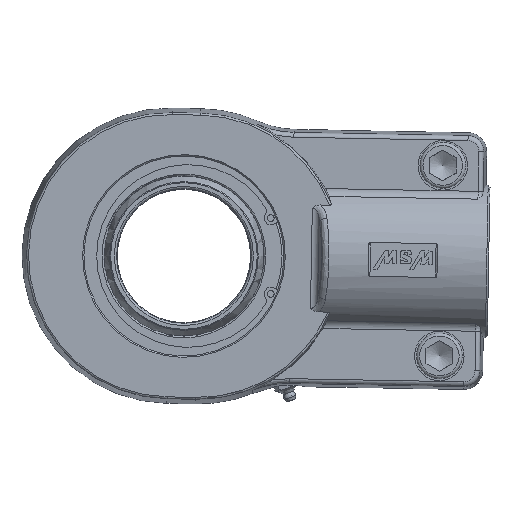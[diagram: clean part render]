
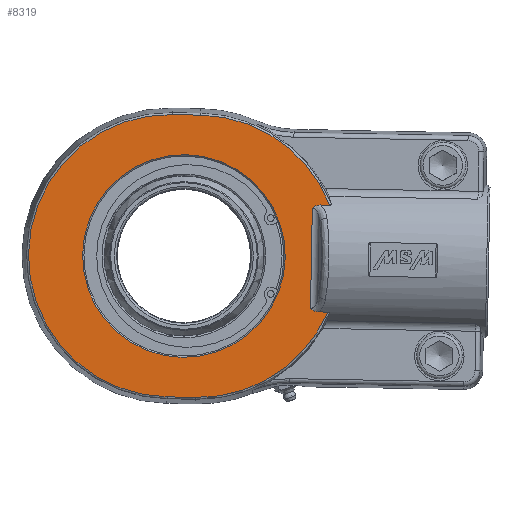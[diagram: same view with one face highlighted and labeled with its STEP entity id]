
A CAD part, left-side view. The second image highlights one B-rep face of the part: STEP entity #8319.
In plain terms, the highlighted planar face has unit normal (-1, 0, 0) as drawn and (0, 0, 1) by its records, which use the part's own axes.
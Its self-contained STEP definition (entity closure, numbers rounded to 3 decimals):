
#3864=CARTESIAN_POINT('',(28.067,-76.068,28.5));
#3865=VERTEX_POINT('',#3864);
#3881=CARTESIAN_POINT('',(28.067,-71.063,28.5));
#3882=VERTEX_POINT('',#3881);
#3883=CARTESIAN_POINT('',(28.067,-71.063,28.5));
#3884=DIRECTION('',(0.,-1.0,0.));
#3885=VECTOR('',#3884,5.005);
#3886=LINE('',#3883,#3885);
#3887=EDGE_CURVE('',#3882,#3865,#3886,.T.);
#3913=CARTESIAN_POINT('',(-28.067,-71.063,28.5));
#3914=VERTEX_POINT('',#3913);
#3928=CARTESIAN_POINT('',(-28.067,-76.068,28.5));
#3929=VERTEX_POINT('',#3928);
#3930=CARTESIAN_POINT('',(-28.067,-76.068,28.5));
#3931=DIRECTION('',(0.,1.0,0.));
#3932=VECTOR('',#3931,5.005);
#3933=LINE('',#3930,#3932);
#3934=EDGE_CURVE('',#3929,#3914,#3933,.T.);
#4355=CARTESIAN_POINT('',(0.0,53.2,28.5));
#4356=VERTEX_POINT('',#4355);
#4357=CARTESIAN_POINT('',(0.0,0.0,28.5));
#4358=DIRECTION('',(0.0,0.0,-1.0));
#4359=DIRECTION('',(0.0,1.0,0.0));
#4360=AXIS2_PLACEMENT_3D('',#4357,#4358,#4359);
#4361=CIRCLE('',#4360,53.2);
#4362=EDGE_CURVE('',#4356,#4356,#4361,.T.);
#8132=CARTESIAN_POINT('',(-74.09,-7.5,28.5));
#8133=VERTEX_POINT('',#8132);
#8151=CARTESIAN_POINT('',(0.0,-7.5,28.5));
#8152=DIRECTION('',(0.0,0.0,-1.));
#8153=DIRECTION('',(-0.829,-0.559,0.0));
#8154=AXIS2_PLACEMENT_3D('',#8151,#8152,#8153);
#8155=CIRCLE('',#8154,74.09);
#8156=EDGE_CURVE('',#3929,#8133,#8155,.T.);
#8166=CARTESIAN_POINT('',(-74.09,7.5,28.5));
#8167=VERTEX_POINT('',#8166);
#8182=CARTESIAN_POINT('',(-74.09,-7.5,28.5));
#8183=DIRECTION('',(0.0,1.0,0.0));
#8184=VECTOR('',#8183,15.);
#8185=LINE('',#8182,#8184);
#8186=EDGE_CURVE('',#8133,#8167,#8185,.T.);
#8196=CARTESIAN_POINT('',(74.09,7.5,28.5));
#8197=VERTEX_POINT('',#8196);
#8207=CARTESIAN_POINT('',(0.,7.5,28.5));
#8208=DIRECTION('',(0.0,0.0,-1.0));
#8209=DIRECTION('',(0.0,1.0,0.0));
#8210=AXIS2_PLACEMENT_3D('',#8207,#8208,#8209);
#8211=CIRCLE('',#8210,74.09);
#8212=EDGE_CURVE('',#8167,#8197,#8211,.T.);
#8222=CARTESIAN_POINT('',(74.09,-7.5,28.5));
#8223=VERTEX_POINT('',#8222);
#8233=CARTESIAN_POINT('',(74.09,7.5,28.5));
#8234=DIRECTION('',(0.0,-1.0,0.0));
#8235=VECTOR('',#8234,15.);
#8236=LINE('',#8233,#8235);
#8237=EDGE_CURVE('',#8197,#8223,#8236,.T.);
#8256=CARTESIAN_POINT('',(0.0,-7.5,28.5));
#8257=DIRECTION('',(0.0,0.0,-1.0));
#8258=DIRECTION('',(0.829,-0.559,0.0));
#8259=AXIS2_PLACEMENT_3D('',#8256,#8257,#8258);
#8260=CIRCLE('',#8259,74.09);
#8261=EDGE_CURVE('',#8223,#3865,#8260,.T.);
#8266=CARTESIAN_POINT('',(0.,0.0,28.5));
#8267=DIRECTION('',(0.0,0.0,1.0));
#8268=DIRECTION('',(1.0,0.0,0.0));
#8269=AXIS2_PLACEMENT_3D('',#8266,#8267,#8268);
#8270=PLANE('',#8269);
#8271=ORIENTED_EDGE('',*,*,#8261,.F.);
#8272=ORIENTED_EDGE('',*,*,#8237,.F.);
#8273=ORIENTED_EDGE('',*,*,#8212,.F.);
#8274=ORIENTED_EDGE('',*,*,#8186,.F.);
#8275=ORIENTED_EDGE('',*,*,#8156,.F.);
#8276=ORIENTED_EDGE('',*,*,#3934,.T.);
#8277=CARTESIAN_POINT('',(-26.377,-66.931,28.5));
#8278=VERTEX_POINT('',#8277);
#8279=CARTESIAN_POINT('',(-28.067,-71.063,28.5));
#8280=CARTESIAN_POINT('',(-28.067,-70.964,28.5));
#8281=CARTESIAN_POINT('',(-28.065,-70.866,28.5));
#8282=CARTESIAN_POINT('',(-28.025,-70.033,28.5));
#8283=CARTESIAN_POINT('',(-27.858,-69.311,28.5));
#8284=CARTESIAN_POINT('',(-27.341,-68.154,28.5));
#8285=CARTESIAN_POINT('',(-26.993,-67.549,28.5));
#8286=CARTESIAN_POINT('',(-26.383,-66.937,28.5));
#8287=CARTESIAN_POINT('',(-26.38,-66.934,28.5));
#8288=CARTESIAN_POINT('',(-26.377,-66.931,28.5));
#8289=B_SPLINE_CURVE_WITH_KNOTS('',3,(#8279,#8280,#8281,#8282,#8283,#8284,#8285,#8286,#8287,#8288),.UNSPECIFIED.,.F.,.U.,(4,2,2,2,4),(0.0,0.03,0.25,0.41,0.411),.UNSPECIFIED.);
#8290=EDGE_CURVE('',#8278,#3914,#8289,.F.);
#8291=ORIENTED_EDGE('',*,*,#8290,.F.);
#8292=CARTESIAN_POINT('',(26.377,-66.931,28.5));
#8293=VERTEX_POINT('',#8292);
#8294=CARTESIAN_POINT('',(26.377,-66.931,28.5));
#8295=DIRECTION('',(-1.0,0.0,0.0));
#8296=VECTOR('',#8295,52.754);
#8297=LINE('',#8294,#8296);
#8298=EDGE_CURVE('',#8293,#8278,#8297,.T.);
#8299=ORIENTED_EDGE('',*,*,#8298,.F.);
#8300=CARTESIAN_POINT('',(26.377,-66.931,28.5));
#8301=CARTESIAN_POINT('',(26.38,-66.934,28.5));
#8302=CARTESIAN_POINT('',(26.383,-66.937,28.5));
#8303=CARTESIAN_POINT('',(26.665,-67.22,28.5));
#8304=CARTESIAN_POINT('',(26.914,-67.524,28.5));
#8305=CARTESIAN_POINT('',(27.344,-68.183,28.5));
#8306=CARTESIAN_POINT('',(27.523,-68.531,28.5));
#8307=CARTESIAN_POINT('',(27.934,-69.587,28.5));
#8308=CARTESIAN_POINT('',(28.067,-70.322,28.5));
#8309=CARTESIAN_POINT('',(28.067,-71.063,28.5));
#8310=B_SPLINE_CURVE_WITH_KNOTS('',3,(#8300,#8301,#8302,#8303,#8304,#8305,#8306,#8307,#8308,#8309),.UNSPECIFIED.,.F.,.U.,(4,2,2,2,4),(-0.001,0.0,0.119,0.237,0.46),.UNSPECIFIED.);
#8311=EDGE_CURVE('',#3882,#8293,#8310,.F.);
#8312=ORIENTED_EDGE('',*,*,#8311,.F.);
#8313=ORIENTED_EDGE('',*,*,#3887,.T.);
#8314=EDGE_LOOP('',(#8271,#8272,#8273,#8274,#8275,#8276,#8291,#8299,#8312,#8313));
#8315=FACE_OUTER_BOUND('',#8314,.T.);
#8316=ORIENTED_EDGE('',*,*,#4362,.T.);
#8317=EDGE_LOOP('',(#8316));
#8318=FACE_BOUND('',#8317,.T.);
#8319=ADVANCED_FACE('',(#8315,#8318),#8270,.T.);
